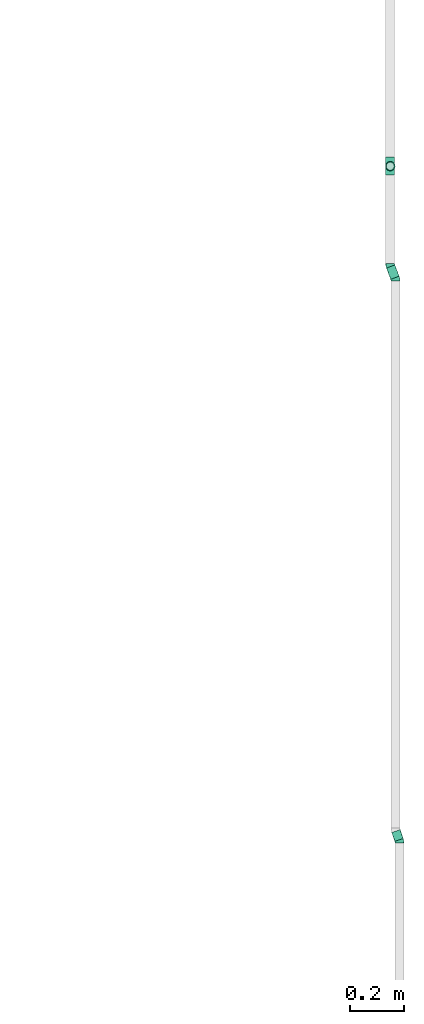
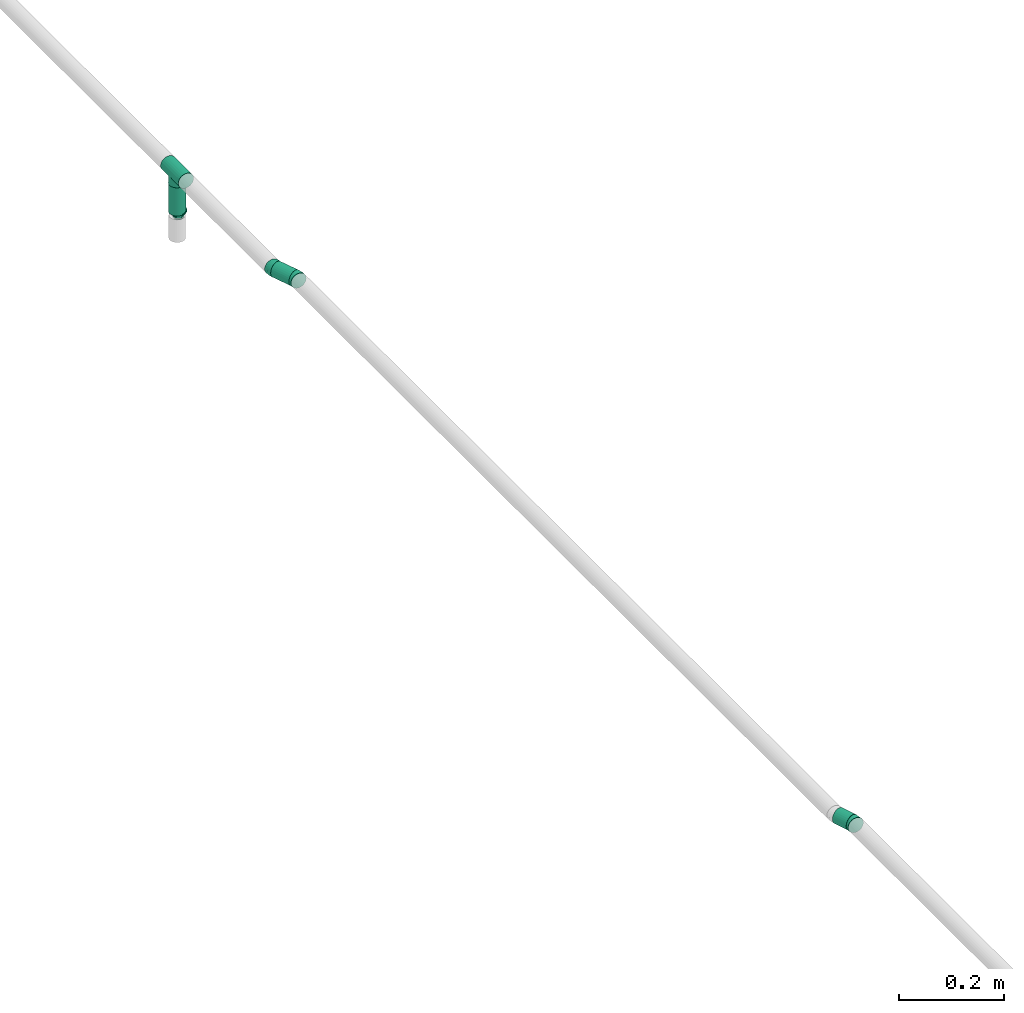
# One storey, part 23 of 32: 5 flow fittings, 3 flow segments.
"""IFC2X3 building model written with IfcOpenShell, lengths in millimetres."""

from ifc_helpers import new_model, entity, si_unit, converted_unit, derived_unit, direction, frame, origin_with_axes, origin_2d_with_axis, place, context, subcontext, project, spatial, hollow_circle, extrude, open_shell, surface_model, source, transform, mapped, type_object, element, save


model = new_model("IFC2X3")

# Units and contexts
model_context = context("Model", 3, precision=0.01, world=frame((0.0, 4.29681676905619e-09, 0.0)), true_north=direction((4.01073788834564e-13, 1.0)))
plan_context = context("Plan", 3, precision=0.01, world=frame((0.0, 4.29681676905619e-09, 0.0)), true_north=direction((4.01073788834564e-13, 1.0)))
body_context = subcontext(model_context, "Body", "Model", "MODEL_VIEW")
ifc_project = project(units=[converted_unit("PLANEANGLEUNIT", "DEGREE", entity("IfcPositiveLengthMeasure", 0.0174532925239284), si_unit("PLANEANGLEUNIT", "RADIAN"), dimensions=[0, 0, 0, 0, 0, 0, 0]), si_unit("AREAUNIT", "SQUARE_METRE"), si_unit("LENGTHUNIT", "METRE", prefix="MILLI"), si_unit("MASSUNIT", "GRAM", prefix="KILO"), si_unit("POWERUNIT", "WATT"), si_unit("PRESSUREUNIT", "PASCAL", prefix="KILO"), si_unit("FORCEUNIT", "NEWTON", prefix="KILO"), si_unit("ELECTRICVOLTAGEUNIT", "VOLT"), si_unit("ELECTRICCURRENTUNIT", "AMPERE"), si_unit("THERMODYNAMICTEMPERATUREUNIT", "DEGREE_CELSIUS"), si_unit("TIMEUNIT", "SECOND"), si_unit("VOLUMEUNIT", "CUBIC_METRE"), derived_unit("LINEARVELOCITYUNIT", [(si_unit("LENGTHUNIT", "METRE"), 1), (si_unit("TIMEUNIT", "SECOND"), -1)]), derived_unit("VOLUMETRICFLOWRATEUNIT", [(si_unit("VOLUMEUNIT", "CUBIC_METRE"), 1), (si_unit("TIMEUNIT", "SECOND"), -1)]), derived_unit("THERMALTRANSMITTANCEUNIT", [(si_unit("POWERUNIT", "WATT"), 1), (si_unit("THERMODYNAMICTEMPERATUREUNIT", "KELVIN"), -1), (si_unit("AREAUNIT", "SQUARE_METRE"), -1)]), derived_unit("SOUNDPRESSUREUNIT", [(si_unit("PRESSUREUNIT", "PASCAL"), 1)])], contexts=[model_context, plan_context])

# Site, building, storey
site_placement = place(None, frame((0.0, -4.29681676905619e-09, 0.0), z_axis=(0.0, 0.0, 1.0), x_axis=(1.0, 0.0, 0.0)))
site = spatial("IfcSite", under=ifc_project, at=site_placement, CompositionType="ELEMENT")
building_placement = place(site_placement, frame((0.0, 4.29681676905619e-09, 0.0), z_axis=(0.0, 0.0, 1.0), x_axis=(1.0, 0.0, 0.0)))
building = spatial("IfcBuilding", under=site, at=building_placement, Name="mc-building", CompositionType="ELEMENT")
storey_placement = place(building_placement, frame((0.0, 0.0, 205200.0), z_axis=(0.0, 0.0, 1.0), x_axis=(1.0, 0.0, 0.0)))
storey = spatial("IfcBuildingStorey", under=building, at=storey_placement, Name="Nivå D + 1,2 m", CompositionType="ELEMENT", Elevation=205200.0)

# Flow fittings
pipe_fitting_type_1 = type_object("IfcPipeFittingType", Name="magi_pipe_fe_tee_centric_90_001", PredefinedType="JUNCTION")
shared_shape_1 = source(origin_with_axes(), body_context, "Body", "SurfaceModel", [
    surface_model("IfcShellBasedSurfaceModel", [(-33.8, 4.37404, -16.32415), (-33.8, 0.0, -16.9), (-33.8, 16.32415, -4.37404), (-33.8, 8.45, -14.63583), (-33.8, 11.9501, -11.9501), (-33.8, 14.63583, -8.45), (-33.8, -16.9, 0.0), (-33.8, -11.9501, -11.9501), (-33.8, -14.63583, -8.45), (-33.8, -8.45, -14.63583), (-33.8, -4.37404, -16.32415), (-33.8, -16.32415, -4.37404), (-33.8, 14.63583, 8.45), (-33.8, 16.32415, 4.37404), (-33.8, -8.45, 14.63583), (-33.8, 8.45, 14.63583), (-33.8, 11.9501, 11.9501), (-33.8, 4.37404, 16.32415), (-33.8, 0.0, 16.9), (-33.8, -11.9501, 11.9501), (-33.8, -14.63583, 8.45), (-33.8, -16.32415, 4.37404), (-33.8, -4.37404, 16.32415), (-33.8, 16.9, 0.0), (33.8, 4.37404, -16.32415), (33.8, -16.9, 0.0), (33.8, 0.0, -16.9), (33.8, 14.63583, -8.45), (33.8, 8.45, -14.63583), (33.8, 16.32415, -4.37404), (33.8, 11.9501, -11.9501), (33.8, -16.32415, 4.37404), (33.8, -8.45, -14.63583), (33.8, -4.37404, -16.32415), (33.8, -11.9501, -11.9501), (33.8, -14.63583, -8.45), (33.8, -16.32415, -4.37404), (33.8, 16.32415, 4.37404), (33.8, 8.45, 14.63583), (33.8, 14.63583, 8.45), (33.8, 11.9501, 11.9501), (33.8, -8.45, 14.63583), (33.8, 4.37404, 16.32415), (33.8, -14.63583, 8.45), (33.8, -11.9501, 11.9501), (33.8, 0.0, 16.9), (33.8, -4.37404, 16.32415), (33.8, 16.9, 0.0), (16.28698, -16.28698, 4.51047), (16.9, -16.9, 0.0), (14.62704, -14.62704, 8.4652), (9.47213, -9.47213, 13.99602), (12.26343, -12.26343, 11.62834), (-16.9, -16.9, 0.0), (-16.28698, -16.28698, 4.51047), (-14.62704, -14.62704, 8.4652), (-12.26343, -12.26343, 11.62834), (-9.47213, -9.47213, 13.99602), (-6.42894, -6.42894, 15.62942), (6.42894, -6.42894, 15.62942), (3.24522, -3.24522, 16.58549), (0.0, 0.0, 16.9), (-3.24522, -3.24522, 16.58549), (3.24522, -3.24522, -16.58549), (0.0, 0.0, -16.9), (-3.24522, -3.24522, -16.58549), (-6.42894, -6.42894, -15.62942), (6.42894, -6.42894, -15.62942), (9.47213, -9.47213, -13.99602), (12.26343, -12.26343, -11.62834), (14.62704, -14.62704, -8.4652), (16.28698, -16.28698, -4.51047), (-9.47213, -9.47213, -13.99602), (-12.26343, -12.26343, -11.62834), (-16.28698, -16.28698, -4.51047), (-14.62704, -14.62704, -8.4652), (4.37404, -25.35, -16.32415), (-16.9, -25.35, 0.0), (0.0, -25.35, -16.9), (14.63583, -25.35, -8.45), (8.45, -25.35, -14.63583), (16.32415, -25.35, -4.37404), (11.9501, -25.35, -11.9501), (-11.9501, -25.35, -11.9501), (-8.45, -25.35, -14.63583), (-4.37404, -25.35, -16.32415), (-14.63583, -25.35, -8.45), (-16.32415, -25.35, -4.37404), (16.9, -25.35, 0.0), (8.45, -25.35, 14.63583), (16.32415, -25.35, 4.37404), (14.63583, -25.35, 8.45), (-8.45, -25.35, 14.63583), (11.9501, -25.35, 11.9501), (4.37404, -25.35, 16.32415), (-16.32415, -25.35, 4.37404), (-11.9501, -25.35, 11.9501), (-14.63583, -25.35, 8.45), (0.0, -25.35, 16.9), (-4.37404, -25.35, 16.32415)], [open_shell([[[0, 1, 2]], [[3, 0, 4]], [[0, 2, 5]], [[4, 0, 5]], [[6, 2, 1]], [[7, 8, 9]], [[1, 10, 9]], [[11, 6, 8]], [[1, 9, 8]], [[1, 8, 6]], [[6, 12, 2]], [[12, 13, 2]], [[14, 12, 6]], [[12, 14, 15]], [[16, 12, 15]], [[17, 15, 18]], [[19, 14, 20]], [[21, 20, 14]], [[22, 18, 14]], [[14, 6, 21]], [[14, 18, 15]], [[23, 2, 13]], [[24, 25, 26]], [[27, 24, 28]], [[27, 29, 24]], [[27, 28, 30]], [[31, 25, 24]], [[26, 32, 33]], [[26, 34, 32]], [[35, 25, 36]], [[35, 34, 26]], [[25, 35, 26]], [[24, 29, 31]], [[29, 37, 38]], [[38, 37, 39]], [[38, 31, 29]], [[38, 39, 40]], [[41, 38, 42]], [[43, 41, 44]], [[41, 43, 31]], [[41, 45, 46]], [[41, 31, 38]], [[42, 45, 41]], [[29, 47, 37]], [[31, 43, 48]], [[25, 31, 49]], [[49, 31, 48]], [[43, 50, 48]], [[44, 41, 51]], [[50, 43, 52]], [[51, 52, 44]], [[52, 43, 44]], [[53, 54, 21]], [[53, 21, 6]], [[21, 54, 20]], [[54, 55, 20]], [[56, 57, 19]], [[19, 20, 56]], [[19, 57, 14]], [[56, 20, 55]], [[14, 57, 58]], [[51, 41, 59]], [[60, 45, 61]], [[59, 46, 60]], [[46, 59, 41]], [[60, 46, 45]], [[61, 45, 42]], [[39, 37, 13]], [[16, 38, 40]], [[12, 40, 39]], [[42, 38, 15]], [[23, 37, 47]], [[62, 61, 18]], [[62, 22, 58]], [[22, 62, 18]], [[58, 22, 14]], [[61, 17, 18]], [[42, 17, 61]], [[15, 17, 42]], [[15, 38, 16]], [[12, 16, 40]], [[13, 12, 39]], [[37, 23, 13]], [[5, 27, 30]], [[23, 47, 29]], [[30, 28, 3]], [[27, 2, 29]], [[26, 33, 63]], [[26, 64, 24]], [[64, 26, 63]], [[28, 24, 0]], [[64, 0, 24]], [[4, 30, 3]], [[2, 27, 5]], [[5, 30, 4]], [[2, 23, 29]], [[65, 66, 10]], [[1, 0, 64]], [[1, 65, 10]], [[66, 9, 10]], [[0, 3, 28]], [[1, 64, 65]], [[63, 33, 67]], [[32, 34, 68]], [[69, 68, 34]], [[35, 70, 69]], [[69, 34, 35]], [[32, 68, 67]], [[36, 25, 49]], [[36, 71, 35]], [[71, 36, 49]], [[35, 71, 70]], [[72, 9, 66]], [[72, 7, 9]], [[7, 72, 73]], [[7, 73, 8]], [[74, 53, 11]], [[75, 74, 8]], [[74, 11, 8]], [[11, 53, 6]], [[75, 8, 73]], [[32, 67, 33]], [[76, 77, 78]], [[79, 76, 80]], [[79, 81, 76]], [[79, 80, 82]], [[77, 76, 81]], [[78, 83, 84]], [[84, 85, 78]], [[86, 77, 87]], [[83, 78, 86]], [[77, 86, 78]], [[81, 88, 77]], [[89, 88, 90]], [[89, 90, 91]], [[92, 77, 89]], [[89, 91, 93]], [[92, 89, 94]], [[95, 96, 97]], [[96, 95, 92]], [[92, 98, 99]], [[95, 77, 92]], [[94, 98, 92]], [[89, 77, 88]], [[77, 95, 53]], [[54, 53, 95]], [[97, 96, 56]], [[96, 92, 57]], [[95, 97, 54]], [[58, 92, 99]], [[55, 54, 97]], [[56, 55, 97]], [[58, 57, 92]], [[98, 61, 62]], [[58, 99, 62]], [[56, 96, 57]], [[62, 99, 98]], [[94, 60, 98]], [[89, 59, 94]], [[91, 90, 48]], [[52, 93, 91]], [[93, 51, 89]], [[49, 90, 88]], [[59, 60, 94]], [[51, 59, 89]], [[49, 48, 90]], [[50, 52, 91]], [[48, 50, 91]], [[51, 93, 52]], [[98, 60, 61]], [[88, 81, 49]], [[71, 49, 81]], [[79, 82, 69]], [[82, 80, 68]], [[81, 79, 71]], [[67, 80, 76]], [[70, 71, 79]], [[69, 70, 79]], [[67, 68, 80]], [[78, 64, 63]], [[67, 76, 63]], [[69, 82, 68]], [[63, 76, 78]], [[85, 65, 78]], [[84, 66, 85]], [[86, 87, 74]], [[86, 73, 83]], [[72, 84, 83]], [[53, 87, 77]], [[66, 65, 85]], [[72, 66, 84]], [[53, 74, 87]], [[75, 73, 86]], [[74, 75, 86]], [[72, 83, 73]], [[78, 65, 64]]])]),
])
flow_fitting_1_placement = place(storey_placement, frame((347592.5, 463959.76745, 4433.60793), z_axis=(-1.0, 0.0, 0.0), x_axis=(0.0, -1.0, 0.0)))
element("IfcFlowFitting", 1, at=flow_fitting_1_placement, inside=storey, type_object=pipe_fitting_type_1, Name="magi_pipe_fe_tee_centric_90_001", context=body_context, shape_type="MappedRepresentation", body=[
    mapped(shared_shape_1, transform((0.0, 0.0, 0.0), scale=1.0)),
])
pipe_fitting_type_2 = type_object("IfcPipeFittingType", Name="magi_pipe_fe_reducer_centric_short_001", PredefinedType="TRANSITION")
shared_shape_2 = source(origin_with_axes(), body_context, "Body", "SurfaceModel", [
    surface_model("IfcShellBasedSurfaceModel", [(-2.0, 11.9501, 11.9501), (-2.0, 0.0, 16.9), (-2.0, 4.37404, 16.32415), (-2.0, 8.45, 14.63583), (-2.0, 14.63583, 8.45), (-2.0, 16.32415, 4.37404), (-2.0, -16.32415, 4.37404), (-2.0, -8.45, 14.63583), (-2.0, -14.63583, 8.45), (-2.0, -11.9501, 11.9501), (-2.0, -4.37404, 16.32415), (-2.0, -16.32415, -4.37404), (-2.0, -16.9, 0.0), (-2.0, -8.45, -14.63583), (-2.0, 16.32415, -4.37404), (-2.0, 11.9501, -11.9501), (-2.0, 14.63583, -8.45), (-2.0, 8.45, -14.63583), (-2.0, 4.37404, -16.32415), (-2.0, 0.0, -16.9), (-2.0, -11.9501, -11.9501), (-2.0, -14.63583, -8.45), (-2.0, -4.37404, -16.32415), (-2.0, 16.9, 0.0), (0.0, 4.37404, -16.32415), (0.0, 8.45, -14.63583), (0.0, 11.9501, -11.9501), (0.0, 0.0, -16.9), (0.0, 16.32415, -4.37404), (0.0, 16.32415, 4.37404), (0.0, 14.63583, -8.45), (0.0, -8.45, -14.63583), (0.0, -4.37404, -16.32415), (0.0, -11.9501, -11.9501), (0.0, -16.32415, -4.37404), (0.0, -14.63583, -8.45), (0.0, -16.32415, 4.37404), (0.0, 16.9, 0.0), (0.0, 14.63583, 8.45), (0.0, 11.9501, 11.9501), (0.0, 4.37404, 16.32415), (0.0, 8.45, 14.63583), (0.0, 0.0, 16.9), (0.0, -14.63583, 8.45), (0.0, -16.9, 0.0), (0.0, -8.45, 14.63583), (0.0, -11.9501, 11.9501), (0.0, -4.37404, 16.32415), (14.4, 5.35, -9.26647), (14.4, 0.0, -10.7), (14.4, 2.76936, -10.33541), (14.4, 10.33541, -2.76936), (14.4, 7.56604, -7.56604), (14.4, -5.35, -9.26647), (14.4, 9.26647, -5.35), (14.4, -9.26647, 5.35), (14.4, -2.76936, -10.33541), (14.4, -7.56604, -7.56604), (14.4, -10.33541, -2.76936), (14.4, -9.26647, -5.35), (14.4, 10.33541, 2.76936), (14.4, 10.7, 0.0), (14.4, 9.26647, 5.35), (14.4, 7.56604, 7.56604), (14.4, 2.76936, 10.33541), (14.4, 0.0, 10.7), (14.4, 5.35, 9.26647), (14.4, -10.33541, 2.76936), (14.4, -10.7, 0.0), (14.4, -7.56604, 7.56604), (14.4, -2.76936, 10.33541), (14.4, -5.35, 9.26647), (12.4, 0.0, 10.7), (12.4, 2.76936, 10.33541), (12.4, 5.35, 9.26647), (12.4, 7.56604, 7.56604), (12.4, 9.26647, 5.35), (12.4, 10.33541, 2.76936), (12.4, -10.33541, 2.76936), (12.4, 10.33541, -2.76936), (12.4, -2.76936, 10.33541), (12.4, -7.56604, 7.56604), (12.4, -5.35, 9.26647), (12.4, -9.26647, 5.35), (12.4, -10.33541, -2.76936), (12.4, -10.7, 0.0), (12.4, 2.76936, -10.33541), (12.4, 9.26647, -5.35), (12.4, 7.56604, -7.56604), (12.4, 5.35, -9.26647), (12.4, -7.56604, -7.56604), (12.4, -9.26647, -5.35), (12.4, -5.35, -9.26647), (12.4, 0.0, -10.7), (12.4, -2.76936, -10.33541), (12.4, 10.7, 0.0), (12.4, 9.3625, -2.31662), (0.0, 14.42505, -5.97505), (0.0, 15.66253, -2.98753), (12.4, -6.6875, -6.94985), (0.0, -13.18758, -8.96258), (0.0, 2.98753, -15.66253), (12.4, 0.0, -9.26647), (12.4, 6.6875, -6.94985), (0.0, 8.96258, -13.18758), (12.4, -9.3625, -2.31662), (0.0, -15.66253, -2.98753), (0.0, -14.42505, -5.97505), (0.0, 5.97505, -14.42505), (0.0, -2.98753, -15.66253), (0.0, -8.96258, -13.18758), (0.0, 13.18758, -8.96258), (12.4, 8.025, -4.63324), (12.4, -2.675, -9.26647), (12.4, 2.675, -9.26647), (0.0, -5.97505, -14.42505), (12.4, -8.025, -4.63324), (12.4, -9.3625, 2.31662), (0.0, -14.42505, 5.97505), (0.0, -15.66253, 2.98753), (12.4, 6.6875, 6.94985), (0.0, 13.18758, 8.96258), (0.0, -2.98753, 15.66253), (12.4, 0.0, 9.26647), (12.4, -6.6875, 6.94985), (0.0, -8.96258, 13.18758), (12.4, 9.3625, 2.31662), (0.0, 15.66253, 2.98753), (0.0, 14.42505, 5.97505), (0.0, -5.97505, 14.42505), (0.0, 2.98753, 15.66253), (0.0, 8.96258, 13.18758), (0.0, -13.18758, 8.96258), (12.4, -8.025, 4.63324), (12.4, 2.675, 9.26647), (12.4, -2.675, 9.26647), (0.0, 5.97505, 14.42505), (12.4, 8.025, 4.63324)], [open_shell([[[0, 1, 2]], [[0, 2, 3]], [[0, 4, 5]], [[0, 5, 1]], [[1, 5, 6]], [[7, 8, 9]], [[7, 10, 1]], [[8, 7, 1]], [[1, 6, 8]], [[6, 11, 12]], [[6, 5, 13]], [[5, 14, 15]], [[15, 14, 16]], [[15, 17, 18]], [[13, 5, 15]], [[19, 15, 18]], [[11, 20, 21]], [[20, 11, 13]], [[13, 19, 22]], [[11, 6, 13]], [[15, 19, 13]], [[5, 23, 14]], [[24, 25, 26]], [[27, 24, 26]], [[26, 28, 29]], [[28, 26, 30]], [[26, 29, 31]], [[27, 31, 32]], [[27, 26, 31]], [[33, 34, 35]], [[34, 33, 31]], [[31, 36, 34]], [[29, 28, 37]], [[29, 38, 39]], [[29, 39, 40]], [[40, 36, 31]], [[40, 39, 41]], [[36, 40, 42]], [[42, 43, 36]], [[44, 34, 36]], [[43, 45, 46]], [[43, 42, 45]], [[45, 42, 47]], [[31, 29, 40]], [[11, 34, 12]], [[21, 35, 11]], [[31, 20, 13]], [[21, 20, 33]], [[32, 13, 22]], [[11, 35, 34]], [[34, 44, 12]], [[32, 31, 13]], [[33, 20, 31]], [[33, 35, 21]], [[27, 32, 22]], [[22, 19, 27]], [[18, 24, 19]], [[17, 25, 18]], [[30, 15, 16]], [[17, 15, 26]], [[28, 16, 14]], [[17, 26, 25]], [[25, 24, 18]], [[37, 28, 14]], [[30, 16, 28]], [[30, 26, 15]], [[23, 37, 14]], [[19, 24, 27]], [[5, 29, 23]], [[4, 38, 5]], [[41, 0, 3]], [[4, 0, 39]], [[40, 3, 2]], [[5, 38, 29]], [[29, 37, 23]], [[40, 41, 3]], [[39, 0, 41]], [[39, 38, 4]], [[42, 40, 2]], [[2, 1, 42]], [[10, 47, 1]], [[7, 45, 10]], [[43, 9, 8]], [[7, 9, 46]], [[36, 8, 6]], [[7, 46, 45]], [[45, 47, 10]], [[44, 36, 6]], [[43, 8, 36]], [[43, 46, 9]], [[12, 44, 6]], [[1, 47, 42]], [[33, 44, 27]], [[48, 49, 50]], [[51, 48, 52]], [[53, 48, 51]], [[51, 52, 54]], [[55, 53, 51]], [[49, 53, 56]], [[49, 48, 53]], [[57, 58, 59]], [[58, 57, 53]], [[53, 55, 58]], [[60, 51, 61]], [[60, 62, 63]], [[51, 63, 55]], [[64, 65, 63]], [[64, 63, 66]], [[55, 63, 65]], [[58, 67, 68]], [[55, 67, 58]], [[69, 70, 71]], [[70, 69, 55]], [[65, 70, 55]], [[51, 60, 63]], [[72, 73, 74]], [[72, 74, 75]], [[75, 76, 77]], [[72, 75, 78]], [[79, 78, 75]], [[80, 81, 82]], [[81, 80, 78]], [[81, 78, 83]], [[80, 72, 78]], [[78, 84, 85]], [[79, 75, 77]], [[84, 78, 79]], [[86, 79, 87]], [[88, 89, 86]], [[88, 86, 87]], [[84, 79, 86]], [[84, 90, 91]], [[90, 84, 92]], [[92, 93, 94]], [[92, 84, 86]], [[86, 93, 92]], [[79, 77, 95]], [[84, 58, 85]], [[91, 59, 84]], [[53, 90, 92]], [[91, 90, 57]], [[56, 92, 94]], [[84, 59, 58]], [[58, 68, 85]], [[56, 53, 92]], [[57, 90, 53]], [[57, 59, 91]], [[49, 56, 94]], [[94, 93, 49]], [[86, 50, 93]], [[89, 48, 86]], [[54, 88, 87]], [[89, 88, 52]], [[51, 87, 79]], [[89, 52, 48]], [[48, 50, 86]], [[61, 51, 79]], [[54, 87, 51]], [[54, 52, 88]], [[95, 61, 79]], [[93, 50, 49]], [[77, 60, 95]], [[76, 62, 77]], [[66, 75, 74]], [[76, 75, 63]], [[64, 74, 73]], [[77, 62, 60]], [[60, 61, 95]], [[64, 66, 74]], [[63, 75, 66]], [[63, 62, 76]], [[65, 64, 73]], [[73, 72, 65]], [[80, 70, 72]], [[82, 71, 80]], [[55, 81, 83]], [[82, 81, 69]], [[67, 83, 78]], [[82, 69, 71]], [[71, 70, 80]], [[68, 67, 78]], [[55, 83, 67]], [[55, 69, 81]], [[85, 68, 78]], [[72, 70, 65]], [[74, 82, 95]], [[95, 82, 92]], [[92, 89, 95]], [[92, 82, 85]], [[42, 39, 44]], [[44, 46, 42]], [[39, 26, 44]], [[27, 44, 26]], [[26, 39, 37]], [[96, 97, 98]], [[33, 99, 100]], [[101, 102, 27]], [[98, 37, 95]], [[26, 103, 104]], [[104, 103, 89]], [[105, 106, 107]], [[89, 108, 104]], [[102, 109, 27]], [[110, 99, 33]], [[95, 96, 98]], [[103, 111, 112]], [[109, 102, 113]], [[85, 44, 106]], [[102, 101, 114]], [[110, 115, 92]], [[96, 112, 97]], [[107, 116, 105]], [[85, 106, 105]], [[113, 115, 109]], [[92, 115, 113]], [[116, 107, 100]], [[108, 89, 114]], [[111, 103, 26]], [[111, 97, 112]], [[99, 110, 92]], [[116, 100, 99]], [[101, 108, 114]], [[117, 118, 119]], [[39, 120, 121]], [[122, 123, 42]], [[119, 44, 85]], [[46, 124, 125]], [[125, 124, 82]], [[126, 127, 128]], [[82, 129, 125]], [[123, 130, 42]], [[131, 120, 39]], [[85, 117, 119]], [[124, 132, 133]], [[130, 123, 134]], [[95, 37, 127]], [[123, 122, 135]], [[131, 136, 74]], [[117, 133, 118]], [[128, 137, 126]], [[95, 127, 126]], [[134, 136, 130]], [[74, 136, 134]], [[137, 128, 121]], [[129, 82, 135]], [[132, 124, 46]], [[132, 118, 133]], [[120, 131, 74]], [[137, 121, 120]], [[122, 129, 135]]])]),
])
flow_fitting_2_placement = place(storey_placement, frame((347595.0, 463959.76745, 4342.78346000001), z_axis=(1.0, 0.0, 0.0), x_axis=(0.0, 0.0, -1.0)))
element("IfcFlowFitting", 2, at=flow_fitting_2_placement, inside=storey, type_object=pipe_fitting_type_2, Name="magi_pipe_fe_reducer_centric_short_001", context=body_context, shape_type="MappedRepresentation", body=[
    mapped(shared_shape_2, transform((0.0, 0.0, 0.0), scale=1.0)),
])
pipe_fitting_type_3 = type_object("IfcPipeFittingType", Name="magi_pipe_fe_elbow_short_001", PredefinedType="BEND")
shared_shape_3 = source(origin_with_axes(), body_context, "Body", "SurfaceModel", [
    surface_model("IfcShellBasedSurfaceModel", [(-6.08608, 4.37404, -16.32415), (-6.08608, 0.0, -16.9), (-6.08608, 11.9501, -11.9501), (-6.08608, 8.45, -14.63583), (-6.08608, 16.32415, -4.37404), (-6.08608, 14.63583, -8.45), (-6.08608, -14.63583, -8.45), (-6.08608, -16.32415, -4.37404), (-6.08608, -8.45, 14.63583), (-6.08608, -11.9501, -11.9501), (-6.08608, -8.45, -14.63583), (-6.08608, -4.37404, -16.32415), (-6.08608, -16.9, 0.0), (-6.08608, -16.32415, 4.37404), (-6.08608, 11.9501, 11.9501), (-6.08608, 16.32415, 4.37404), (-6.08608, 14.63583, 8.45), (-6.08608, 4.37404, 16.32415), (-6.08608, 8.45, 14.63583), (-6.08608, -14.63583, 8.45), (-6.08608, -11.9501, 11.9501), (-6.08608, -4.37404, 16.32415), (-6.08608, 0.0, 16.9), (-6.08608, 16.9, 0.0), (0.00974, 17.42177, -4.37404), (5.70382, 2.12291, -16.9), (4.1781, 6.22222, -16.32415), (2.75635, 10.04218, -14.63583), (1.53546, 13.32245, -11.9501), (0.59865, 15.83949, -8.45), (8.6513, -5.79637, 14.63583), (8.6513, -5.79637, -14.63583), (9.87218, -9.07664, -11.9501), (10.809, -11.59368, -8.45), (7.22955, -1.97641, -16.32415), (11.39791, -13.17596, -4.37404), (11.39791, -13.17596, 4.37404), (11.59877, -13.71564, 0.0), (0.00974, 17.42177, 4.37404), (1.53546, 13.32245, 11.9501), (0.59865, 15.83949, 8.45), (2.75635, 10.04218, 14.63583), (4.1781, 6.22222, 16.32415), (5.70382, 2.12291, 16.9), (9.87218, -9.07664, 11.9501), (10.809, -11.59368, 8.45), (7.22955, -1.97641, 16.32415), (-0.19113, 17.96145, 0.0), (2.68623, -14.91842, 6.24984), (2.4004, -12.77233, 10.11432), (1.75571, -9.7506, 13.28109), (1.08114, -6.00426, 15.53905), (0.32581, -1.80943, 16.73128), (-0.45847, 2.54619, 16.77599), (-3.0912, 17.16748, 0.0), (0.57982, -16.15499, 3.18182), (2.89855, -16.09756, 0.0), (0.32581, -1.80943, -16.73128), (1.08114, -6.00426, -15.53905), (2.20553, -12.80742, -10.11432), (1.75571, -9.7506, -13.28109), (-0.45847, 2.54619, -16.77599), (5.09168, -15.34258, -3.18182), (2.68623, -14.91842, -6.24984)], [open_shell([[[0, 1, 2]], [[3, 0, 2]], [[4, 5, 2]], [[6, 2, 1]], [[2, 7, 8]], [[9, 6, 10]], [[1, 11, 10]], [[1, 10, 6]], [[6, 7, 2]], [[12, 13, 7]], [[4, 2, 14]], [[14, 15, 4]], [[16, 15, 14]], [[17, 18, 14]], [[2, 8, 14]], [[17, 14, 8]], [[19, 20, 13]], [[13, 20, 7]], [[21, 22, 8]], [[20, 8, 7]], [[8, 22, 17]], [[23, 4, 15]], [[24, 25, 26]], [[24, 26, 27]], [[28, 29, 24]], [[28, 24, 27]], [[30, 31, 25]], [[32, 30, 33]], [[31, 34, 25]], [[35, 36, 37]], [[30, 32, 31]], [[35, 33, 36]], [[30, 25, 24]], [[24, 38, 39]], [[39, 38, 40]], [[30, 39, 41]], [[39, 30, 24]], [[42, 43, 41]], [[36, 44, 45]], [[44, 36, 30]], [[30, 43, 46]], [[36, 33, 30]], [[41, 43, 30]], [[47, 38, 24]], [[48, 49, 19]], [[8, 20, 50]], [[50, 49, 44]], [[36, 45, 48]], [[49, 50, 20]], [[21, 8, 51]], [[50, 51, 8]], [[22, 21, 52]], [[22, 53, 17]], [[44, 30, 50]], [[48, 19, 13]], [[19, 49, 20]], [[16, 14, 40]], [[18, 39, 14]], [[46, 43, 52]], [[51, 52, 21]], [[52, 53, 22]], [[54, 15, 38]], [[55, 48, 13]], [[54, 23, 15]], [[38, 15, 16]], [[12, 55, 13]], [[41, 18, 17]], [[17, 53, 42]], [[12, 56, 55]], [[30, 46, 51]], [[52, 51, 46]], [[30, 51, 50]], [[53, 52, 43]], [[45, 44, 49]], [[49, 48, 45]], [[56, 37, 36]], [[40, 38, 16]], [[47, 54, 38]], [[41, 17, 42]], [[18, 41, 39]], [[40, 14, 39]], [[42, 53, 43]], [[36, 48, 55]], [[36, 55, 56]], [[1, 57, 11]], [[58, 57, 34]], [[59, 60, 32]], [[1, 0, 61]], [[28, 2, 5]], [[60, 58, 31]], [[2, 28, 3]], [[62, 63, 35]], [[4, 24, 5]], [[33, 59, 32]], [[57, 61, 25]], [[3, 26, 0]], [[56, 12, 7]], [[7, 63, 62]], [[60, 9, 10]], [[7, 62, 56]], [[7, 6, 63]], [[6, 59, 63]], [[58, 10, 11]], [[4, 23, 54]], [[54, 47, 24]], [[58, 11, 57]], [[24, 29, 5]], [[28, 5, 29]], [[6, 9, 59]], [[3, 27, 26]], [[60, 59, 9]], [[60, 10, 58]], [[3, 28, 27]], [[57, 1, 61]], [[25, 61, 26]], [[58, 34, 31]], [[26, 61, 0]], [[37, 62, 35]], [[60, 31, 32]], [[33, 35, 63]], [[37, 56, 62]], [[59, 33, 63]], [[34, 57, 25]], [[4, 54, 24]]])]),
])
for number, where, z_axis, x_axis, name in (
    (3, (347592.5, 463590.96745, 4433.60793), (0.0, 0.0, 1.0), (0.0, -1.0, 0.0), "magi_pipe_fe_elbow_short_001"),
    (4, (347612.5, 463537.23146, 4433.60793), (0.0, 0.0, 1.0), (0.0, 1.0, 0.0), "magi_pipe_fe_elbow_short_001"),
):
    element("IfcFlowFitting", number, at=place(storey_placement, frame(where, z_axis=z_axis, x_axis=x_axis)), inside=storey, type_object=pipe_fitting_type_3, Name=name, context=body_context, shape_type="MappedRepresentation", body=[
        mapped(shared_shape_3, transform((0.0, 0.0, 0.0), scale=1.0)),
    ])
shared_shape_4 = source(origin_with_axes(), body_context, "Body", "SurfaceModel", [
    surface_model("IfcShellBasedSurfaceModel", [(-5.62725, 4.37404, -16.32415), (-5.62725, 0.0, -16.9), (-5.62725, 11.9501, -11.9501), (-5.62725, 8.45, -14.63583), (-5.62725, 16.32415, -4.37404), (-5.62725, 14.63583, -8.45), (-5.62725, -14.63583, -8.45), (-5.62725, -16.32415, -4.37404), (-5.62725, -8.45, 14.63583), (-5.62725, -11.9501, -11.9501), (-5.62725, -8.45, -14.63583), (-5.62725, -4.37404, -16.32415), (-5.62725, -16.9, 0.0), (-5.62725, -16.32415, 4.37404), (-5.62725, 11.9501, 11.9501), (-5.62725, 16.32415, 4.37404), (-5.62725, 14.63583, 8.45), (-5.62725, 4.37404, 16.32415), (-5.62725, 8.45, 14.63583), (-5.62725, -14.63583, 8.45), (-5.62725, -11.9501, 11.9501), (-5.62725, -4.37404, 16.32415), (-5.62725, 0.0, 16.9), (-5.62725, 16.9, 0.0), (1.45196, 13.1287, -11.9501), (5.32371, 1.82319, -16.9), (3.90655, 5.96129, -16.32415), (2.58597, 9.81739, -14.63583), (0.58181, 15.66955, -8.45), (0.0348, 17.2668, -4.37404), (9.19546, -9.48232, -11.9501), (9.19546, -9.48232, 11.9501), (8.06145, -6.17101, -14.63583), (6.74087, -2.31491, -16.32415), (10.61262, -13.62042, -4.37404), (10.06562, -12.02318, -8.45), (10.06562, -12.02318, 8.45), (10.61262, -13.62042, 4.37404), (10.79919, -14.16522, 0.0), (-0.15177, 17.81159, 0.0), (0.0348, 17.2668, 4.37404), (0.58181, 15.66955, 8.45), (1.45196, 13.1287, 11.9501), (2.58597, 9.81739, 14.63583), (3.90655, 5.96129, 16.32415), (5.32371, 1.82319, 16.9), (8.06145, -6.17101, 14.63583), (6.74087, -2.31491, 16.32415), (-2.85183, 17.12946, 0.0), (2.69902, -16.21163, 0.0)], [open_shell([[[0, 1, 2]], [[3, 0, 2]], [[4, 5, 2]], [[6, 2, 1]], [[2, 7, 8]], [[9, 6, 10]], [[1, 11, 10]], [[1, 10, 6]], [[6, 7, 2]], [[12, 13, 7]], [[4, 2, 14]], [[14, 15, 4]], [[16, 15, 14]], [[17, 18, 14]], [[2, 8, 14]], [[17, 14, 8]], [[19, 20, 13]], [[13, 20, 7]], [[21, 22, 8]], [[20, 8, 7]], [[8, 22, 17]], [[23, 4, 15]], [[24, 25, 26]], [[24, 26, 27]], [[24, 28, 29]], [[25, 24, 30]], [[24, 31, 30]], [[25, 32, 33]], [[25, 30, 32]], [[30, 34, 35]], [[30, 36, 34]], [[34, 37, 38]], [[39, 24, 29]], [[39, 40, 41]], [[41, 42, 24]], [[42, 43, 44]], [[42, 31, 24]], [[45, 42, 44]], [[31, 36, 30]], [[37, 34, 36]], [[46, 45, 47]], [[45, 46, 31]], [[45, 31, 42]], [[41, 24, 39]], [[20, 19, 31]], [[46, 8, 20]], [[47, 21, 8]], [[45, 22, 21]], [[17, 22, 44]], [[13, 36, 19]], [[16, 14, 41]], [[18, 42, 14]], [[48, 15, 40]], [[48, 23, 15]], [[40, 15, 16]], [[43, 18, 17]], [[13, 12, 49]], [[46, 47, 8]], [[20, 31, 46]], [[47, 45, 21]], [[36, 13, 37]], [[19, 36, 31]], [[49, 38, 37]], [[41, 40, 16]], [[39, 48, 40]], [[43, 17, 44]], [[18, 43, 42]], [[41, 14, 42]], [[44, 22, 45]], [[13, 49, 37]], [[1, 33, 11]], [[1, 0, 25]], [[5, 28, 2]], [[2, 24, 3]], [[29, 5, 4]], [[3, 26, 0]], [[49, 12, 7]], [[34, 49, 7]], [[30, 9, 10]], [[7, 6, 34]], [[9, 35, 6]], [[32, 10, 11]], [[4, 23, 48]], [[48, 39, 29]], [[29, 28, 5]], [[24, 2, 28]], [[3, 27, 26]], [[3, 24, 27]], [[26, 25, 0]], [[32, 11, 33]], [[30, 10, 32]], [[6, 35, 34]], [[34, 38, 49]], [[35, 9, 30]], [[25, 33, 1]], [[4, 48, 29]]])]),
])
flow_fitting_3_placement = place(storey_placement, frame((347627.5, 461438.43146, 4433.60793), z_axis=(0.0, 0.0, 1.0), x_axis=(0.0, 1.0, 0.0)))
element("IfcFlowFitting", 5, at=flow_fitting_3_placement, inside=storey, type_object=pipe_fitting_type_3, Name="magi_pipe_fe_elbow_short_001", context=body_context, shape_type="MappedRepresentation", body=[
    mapped(shared_shape_4, transform((0.0, 0.0, 0.0), scale=1.0)),
])

# Flow segments
pipe_segment_type = type_object("IfcPipeSegmentType", Name="Stålrør normaltykke", PredefinedType="RIGIDSEGMENT")
shared_shape_5 = source(origin_with_axes(), body_context, "Body", "SweptSolid", [
    extrude(hollow_circle(Radius=16.9, WallThickness=2.0, at=origin_2d_with_axis()), frame((0.0, 0.0, 0.0), z_axis=(1.0, 0.0, 0.0), x_axis=(0.0, 1.0, 0.0)), (0.0, 0.0, 1.0), 65.5),
])
flow_segment_1_placement = place(storey_placement, frame((347592.5, 463959.76745, 4408.25792999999), z_axis=(-1.0, 0.0, 0.0), x_axis=(0.0, 0.0, -1.0)))
element("IfcFlowSegment", 6, at=flow_segment_1_placement, inside=storey, type_object=pipe_segment_type, Name="Stålrør normaltykke", context=body_context, shape_type="MappedRepresentation", body=[
    mapped(shared_shape_5, transform((0.0, 0.0, 0.0), scale=1.0)),
])
shared_shape_6 = source(origin_with_axes(), body_context, "Body", "SweptSolid", [
    extrude(hollow_circle(Radius=16.9, WallThickness=2.0, at=origin_2d_with_axis()), frame((0.0, 0.0, 0.0), z_axis=(1.0, 0.0, 0.0), x_axis=(0.0, 1.0, 0.0)), (0.0, 0.0, 1.0), 34.8),
])
flow_segment_2_placement = place(storey_placement, frame((347614.32319, 461476.90774, 4433.60793), z_axis=(0.0, 0.0, 1.0), x_axis=(0.323993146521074, -0.946059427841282, 0.0)))
element("IfcFlowSegment", 7, at=flow_segment_2_placement, inside=storey, type_object=pipe_segment_type, Name="Stålrør normaltykke", context=body_context, shape_type="MappedRepresentation", body=[
    mapped(shared_shape_6, transform((0.0, 0.0, 0.0), scale=1.0)),
])
shared_shape_7 = source(origin_with_axes(), body_context, "Body", "SweptSolid", [
    extrude(hollow_circle(Radius=16.9, WallThickness=2.0, at=origin_2d_with_axis()), frame((0.0, 0.0, 0.0), z_axis=(1.0, 0.0, 0.0), x_axis=(0.0, 1.0, 0.0)), (0.0, 0.0, 1.0), 45.2),
])
flow_segment_3_placement = place(storey_placement, frame((347594.62291, 463585.26363, 4433.60793), z_axis=(0.0, 0.0, 1.0), x_axis=(0.348813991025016, -0.937191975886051, 0.0)))
element("IfcFlowSegment", 8, at=flow_segment_3_placement, inside=storey, type_object=pipe_segment_type, Name="Stålrør normaltykke", context=body_context, shape_type="MappedRepresentation", body=[
    mapped(shared_shape_7, transform((0.0, 0.0, 0.0), scale=1.0)),
])

save(model, "model.ifc")
